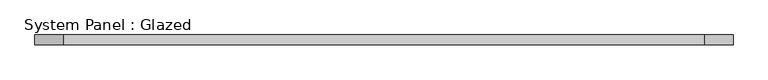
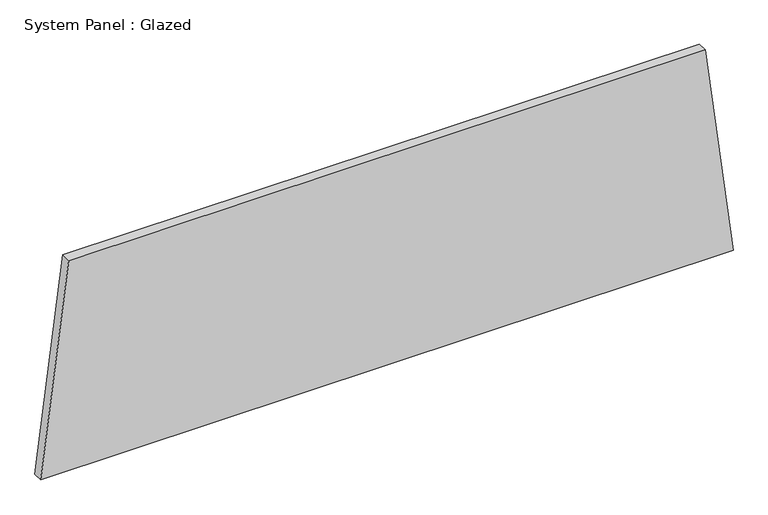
"""IFC4 building model written with IfcOpenShell, lengths in millimetres: plate geometry, System Panel : Glazed."""

from ifc_helpers import new_model, si_unit, frame, origin, place, context, project, spatial, polyline, outline, extrude, source, transform, mapped, element, save


def system_panel_glazed_521f15da(model_context):
    return source(origin(), model_context, "Body", "SweptSolid", [
        extrude(outline(polyline([(0.0, -884.6548418), (0.0, 884.6548418), (566.7196715, 813.2618391), (566.7196715, -813.2618391), (0.0, -884.6548418)])), frame((0.0, -44.45, 0.0), z_axis=(0.0, 1.0, 0.0), x_axis=(0.0, 0.0, 1.0)), (0.0, 0.0, 1.0), 25.4),
    ])


if __name__ == "__main__":
    model = new_model("IFC4")
    model_context = context("Model", 3, world=origin())
    ifc_project = project(units=[si_unit("LENGTHUNIT", "METRE", prefix="MILLI")], contexts=[model_context])
    site = spatial("IfcSite", under=ifc_project)
    building = spatial("IfcBuilding", under=site)
    placement = place(None, origin())
    system_panel_glazed_shape = system_panel_glazed_521f15da(model_context)
    element("IfcPlate", 1, ObjectType="System Panel : Glazed", at=placement, inside=building, context=model_context, shape_type="MappedRepresentation", body=[
        mapped(system_panel_glazed_shape, transform((0.0, 0.0, 0.0), x_axis=(1.0, 0.0, 0.0), y_axis=(0.0, 1.0, 0.0), z_axis=(0.0, 0.0, 1.0))),
    ])
    save(model, "model.ifc")
